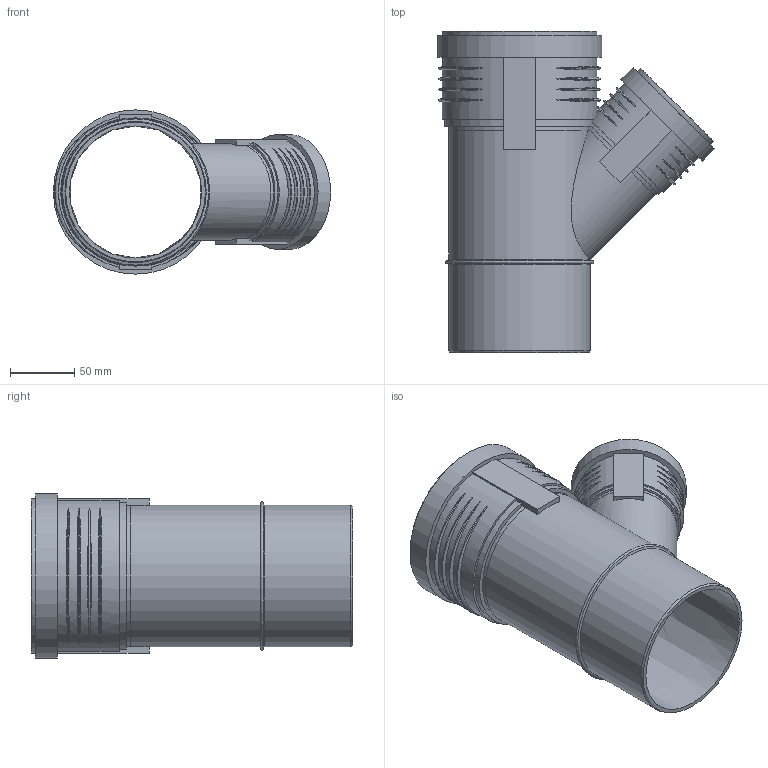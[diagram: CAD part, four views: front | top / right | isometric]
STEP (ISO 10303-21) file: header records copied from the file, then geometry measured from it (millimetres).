
FILE_DESCRIPTION(/* description */ (''),/* implementation_level */ '2;1');
FILE_NAME(/* name */ 'Z:\Geberit\Export\NewStep\390533.stp',/* time_stamp */ '2014-04-02T08:14:23+02:00',/* author */ ('ML'),/* organization */ (''),/* preprocessor_version */ 'ST-DEVELOPER v15.2',/* originating_system */ 'Autodesk Inventor 2014',/* authorisation */ '');
FILE_SCHEMA (('AUTOMOTIVE_DESIGN { 1 0 10303 214 3 1 1 }'));
Length unit declared in the file: millimetre
Products named in the file (4): 861347; 861402; 861404; 390533
Bounding box: 216.15 x 250.9 x 128.1 mm (x, y, z)
Volume: 398506.5 mm3; surface area: 248521.4 mm2
Topology: 3 solids, 3 shells, 125 faces, 304 edges, 211 vertices
Faces by surface type: torus 50, plane 37, cylinder 31, cone 7
Full cylindrical faces by diameter (mm): 70 x1, 70.2 x1, 75.2 x1, 76.2 x2, 81.2 x1, 84.6 x1, 89.6 x1, 103.2 x1, 110.2 x3, 113.3 x2, 120.3 x1, 121.1 x1, 128.1 x1
Entity records: 5165 total; most frequent: CARTESIAN_POINT 2240, ORIENTED_EDGE 538, DIRECTION 532, EDGE_CURVE 269, AXIS2_PLACEMENT_3D 230, VERTEX_POINT 203, EDGE_LOOP 186, STYLED_ITEM 125
